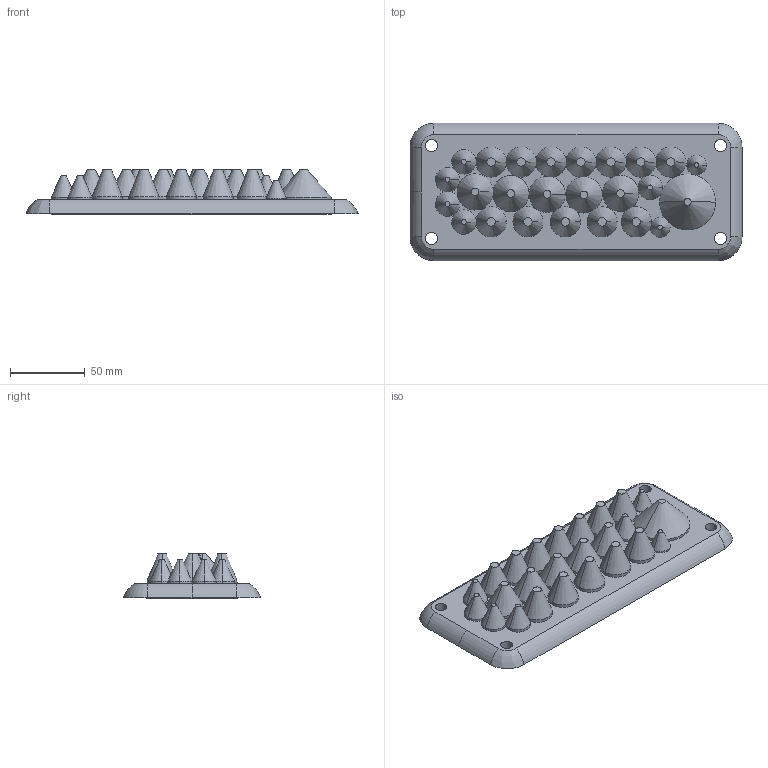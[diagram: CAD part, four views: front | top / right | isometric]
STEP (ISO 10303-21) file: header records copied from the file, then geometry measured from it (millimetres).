
FILE_DESCRIPTION (( 'STEP AP203' ), '1' );
FILE_NAME ('104335.STEP', '2012-12-12T07:52:45', ( 'Joni' ), ( 'Hewlett-Packard Company' ), 'SwSTEP 2.0', 'SolidWorks 2012', '' );
FILE_SCHEMA (( 'CONFIG_CONTROL_DESIGN' ));
Length unit declared in the file: millimetre
Products named in the file (1): 104335
Bounding box: 221.75 x 91.74 x 29.75 mm (x, y, z)
Volume: 253852.6 mm3; surface area: 57940.5 mm2
Topology: 1 solids, 1 shells, 319 faces, 793 edges, 512 vertices
Faces by surface type: cylinder 175, cone 76, plane 62, bspline 4, torus 2
Entity records: 9944 total; most frequent: CARTESIAN_POINT 1962, DIRECTION 1827, ORIENTED_EDGE 1586, AXIS2_PLACEMENT_3D 797, EDGE_CURVE 793, VERTEX_POINT 512, CIRCLE 481, EDGE_LOOP 363
